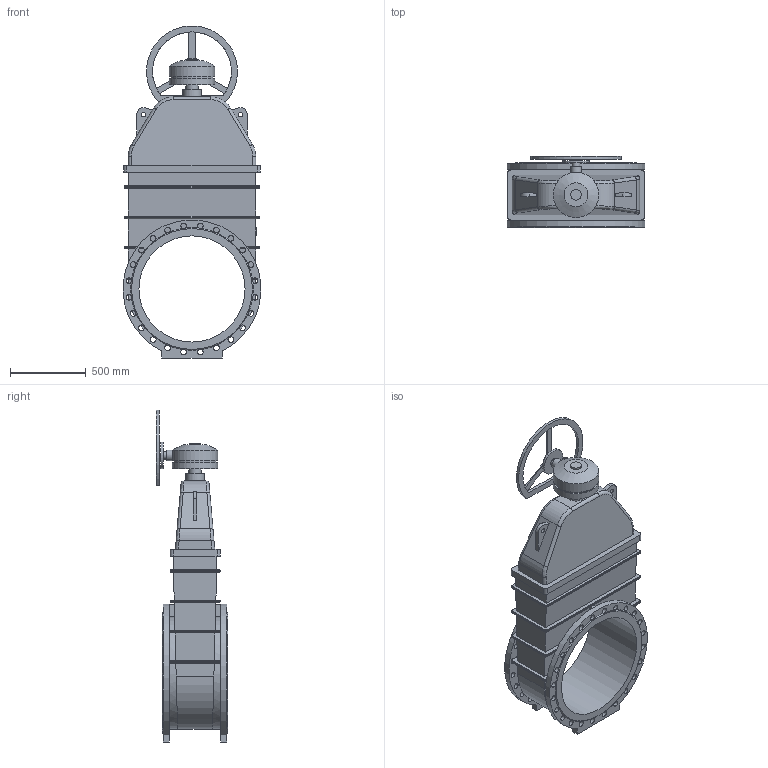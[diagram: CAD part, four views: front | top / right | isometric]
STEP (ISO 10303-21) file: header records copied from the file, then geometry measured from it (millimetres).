
FILE_DESCRIPTION(('STEP AP203'), '1');
FILE_NAME('Çàäâèæêà 47GV DN700 PN10_PN16_L430 + ðåäóêòîð ñ ìàõîâèêîì', '', ('UNSPECIFIED'), ('UNSPECIFIED'), 'ASCON STEP Converter 1.6', 'ASCON Math Kernel', '');
FILE_SCHEMA(('CONFIG_CONTROL_DESIGN'));
Length unit declared in the file: millimetre
Bounding box: 907.39 x 470 x 2188.91 mm (x, y, z)
Volume: 263762023.8 mm3; surface area: 6360183.6 mm2
Topology: 1 solids, 1 shells, 357 faces, 1007 edges, 643 vertices
Faces by surface type: cylinder 169, plane 145, bspline 40, cone 3
Full cylindrical faces by diameter (mm): 14 x8, 18 x8, 30 x3, 37 x48, 50 x1, 70 x2, 80 x1, 100 x1, 120 x1, 175 x1, 280 x1, 300 x2, 700 x1
Entity records: 21118 total; most frequent: CARTESIAN_POINT 9349, ORIENTED_EDGE 1854, DIRECTION 1774, EDGE_CURVE 927, AXIS2_PLACEMENT_3D 703, VERTEX_POINT 643, EDGE_LOOP 536, FACE_BOUND 429
